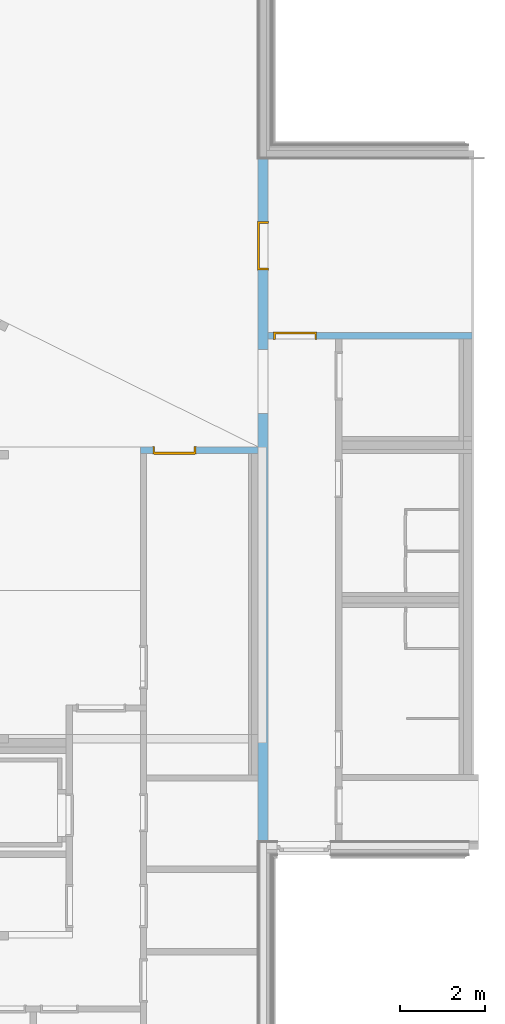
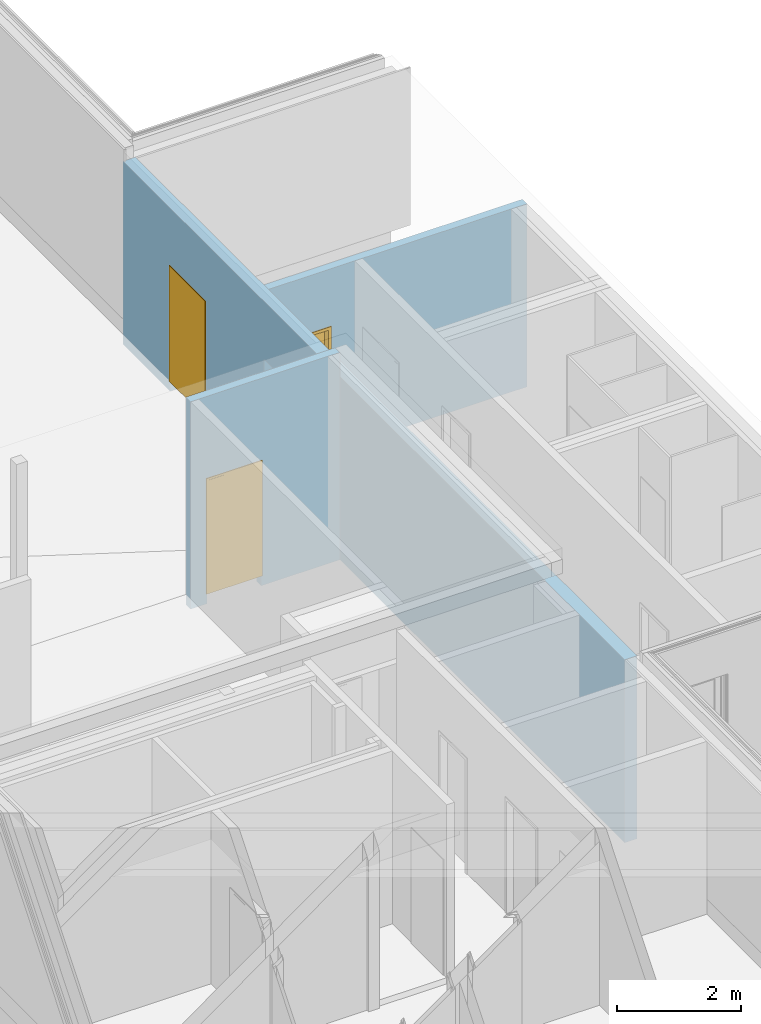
# One storey, part 18 of 23: 3 doors, 4 openings, plus 3 elements that do not belong to this part.
"""IFC4 building model written with IfcOpenShell, lengths in metres."""

from ifc_helpers import new_model, entity, si_unit, converted_unit, derived_unit, frame, frame_2d, origin, origin_with_axes, place, context, subcontext, project, spatial, polyline, rectangle, outline, extrude, faceted_brep, source, transform, mapped, material, type_object, element, fill, save


model = new_model("IFC4")

# Units and contexts
model_context = context("Model", 3, precision=1e-05, world=origin())
body_context = subcontext(model_context, "Body", "Model", "MODEL_VIEW")
ifc_project = project(units=[si_unit("LENGTHUNIT", "METRE"), si_unit("AREAUNIT", "SQUARE_METRE"), si_unit("VOLUMEUNIT", "CUBIC_METRE"), si_unit("MASSUNIT", "GRAM", prefix="KILO"), converted_unit("PLANEANGLEUNIT", "DEGREE", entity("IfcPlaneAngleMeasure", 0.0174532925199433), si_unit("PLANEANGLEUNIT", "RADIAN"), dimensions=[0, 0, 0, 0, 0, 0, 0]), derived_unit("THERMALTRANSMITTANCEUNIT", [(si_unit("POWERUNIT", "WATT"), 1), (si_unit("THERMODYNAMICTEMPERATUREUNIT", "KELVIN"), -1), (si_unit("LENGTHUNIT", "METRE"), -2)]), derived_unit("VOLUMETRICFLOWRATEUNIT", [(si_unit("LENGTHUNIT", "METRE"), 3), (converted_unit("TIMEUNIT", "hour", entity("IfcTimeMeasure", 3600.0), si_unit("TIMEUNIT", "SECOND"), dimensions=[0, 0, 1, 0, 0, 0, 0]), -1), (si_unit("LENGTHUNIT", "METRE"), -1)])], contexts=[model_context])

# Site, building, storey
site_placement = place(None, origin())
site = spatial("IfcSite", under=ifc_project, at=site_placement, Name="Psychiatrie Neubau Wunstorf", CompositionType="ELEMENT")
building_placement = place(site_placement, origin())
building = spatial("IfcBuilding", under=site, at=building_placement, Name="Neubau H1 Sozialzentrum", CompositionType="ELEMENT")
storey_placement = place(building_placement, frame((0.0, 0.0, 0.7)))
storey = spatial("IfcBuildingStorey", under=building, at=storey_placement, Name="H1 Ebene 0", CompositionType="ELEMENT", Elevation=0.7)

# Wall, openings, door
ifc_material_1 = material(Name="WI-HW 60")
wall_1_placement = place(storey_placement, frame((-5.16652529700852, 28.1302445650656, -0.2), z_axis=(0.0, 0.0, 1.0), x_axis=(-3.37391420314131e-16, -1.0, 0.0)))
wall_1 = element("IfcWall", 1, at=wall_1_placement, inside=storey, material=ifc_material_1, context=body_context, shape_type="SweptSolid", body=[
    extrude(rectangle(XDim=16.1739981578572, YDim=0.231999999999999, at=frame_2d((8.08699907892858, 0.116), x_axis=(1.0, 0.0))), origin_with_axes(), (0.0, 0.0, 1.0), 3.6),
])
opening_1_placement = place(wall_1_placement, frame((6.04199824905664, 0.231999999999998, 0.0), z_axis=(0.0, -1.0, 0.0), x_axis=(0.0, 0.0, 1.0)))
element("IfcOpeningElement", 2, at=opening_1_placement, cuts=wall_1, Name="Türöffnung", ObjectType="Opening", context=body_context, shape_type="SweptSolid", body=[
    extrude(outline(polyline([(2.46, 1.5), (2.46, 0.0), (0.0, 0.0), (0.0, 1.5), (2.46, 1.5)])), origin_with_axes(), (0.0, 0.0, 1.0), 0.231999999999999),
])
opening_2_placement = place(wall_1_placement, frame((2.65650055, 0.231999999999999, 0.0), z_axis=(0.0, -1.0, 0.0), x_axis=(0.0, 0.0, 1.0)))
opening_2 = element("IfcOpeningElement", 3, at=opening_2_placement, cuts=wall_1, Name="Türöffnung", ObjectType="Opening", context=body_context, shape_type="SweptSolid", body=[
    extrude(outline(polyline([(2.46, 1.1350011), (2.46, 0.0), (0.0, 0.0), (0.0, 1.1350011), (2.46, 1.1350011)])), origin_with_axes(), (0.0, 0.0, 1.0), 0.231999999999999),
])
ifc_material_2 = material(Name="TI-1F-UZ-ZK")
door_type_1 = type_object("IfcDoorType", Name="SMT", OperationType="SINGLE_SWING_LEFT", ParameterTakesPrecedence=False, PredefinedType="DOOR")
shared_shape_1 = source(origin_with_axes(), body_context, "Body", "Brep", [
    faceted_brep([(0.0, -0.0150000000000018, 2.46), (0.0399999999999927, -0.0150000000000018, 2.46), (0.0399999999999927, -0.0150000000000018, 0.2), (0.0, -0.0150000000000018, 0.2), (0.0, 0.246999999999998, 0.2), (0.0399999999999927, 0.246999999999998, 0.2), (0.0399999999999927, 0.246999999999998, 2.46), (0.0, 0.246999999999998, 2.46)], [[[0, 1, 2, 3]], [[4, 5, 6, 7]], [[3, 4, 7, 0]], [[2, 5, 4, 3]], [[1, 6, 5, 2]], [[0, 7, 6, 1]]], orient=[[False], [False], [False], [False], [False], [False]]),
    faceted_brep([(0.0, -0.0150000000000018, 2.475), (0.0, -0.0150000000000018, 0.2), (-0.0150000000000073, -0.0150000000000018, 0.2), (-0.0150000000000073, -0.0150000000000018, 2.475), (0.0, 0.0, 0.2), (0.0, 0.0, 2.475), (-0.0150000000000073, 0.0, 2.475), (-0.0150000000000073, 0.0, 0.2)], [[[0, 1, 2, 3]], [[4, 5, 6, 7]], [[1, 0, 5, 4]], [[2, 1, 4, 7]], [[3, 2, 7, 6]], [[0, 3, 6, 5]]], orient=[[False], [False], [False], [False], [False], [False]]),
    faceted_brep([(0.0, 0.231999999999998, 2.475), (0.0, 0.231999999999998, 0.2), (-0.0150000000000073, 0.231999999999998, 0.2), (-0.0150000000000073, 0.231999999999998, 2.475), (0.0, 0.246999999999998, 0.2), (0.0, 0.246999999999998, 2.475), (-0.0150000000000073, 0.246999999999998, 2.475), (-0.0150000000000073, 0.246999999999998, 0.2)], [[[0, 1, 2, 3]], [[4, 5, 6, 7]], [[1, 0, 5, 4]], [[2, 1, 4, 7]], [[3, 2, 7, 6]], [[0, 3, 6, 5]]], orient=[[False], [False], [False], [False], [False], [False]]),
    faceted_brep([(1.09500109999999, -0.0150000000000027, 2.46), (1.13500109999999, -0.0150000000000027, 2.46), (1.13500109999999, -0.0150000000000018, 0.2), (1.09500109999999, -0.0150000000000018, 0.2), (1.09500109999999, 0.246999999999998, 0.2), (1.13500109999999, 0.246999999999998, 0.2), (1.13500109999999, 0.246999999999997, 2.46), (1.09500109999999, 0.246999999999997, 2.46)], [[[0, 1, 2, 3]], [[4, 5, 6, 7]], [[3, 4, 7, 0]], [[2, 5, 4, 3]], [[1, 6, 5, 2]], [[0, 7, 6, 1]]], orient=[[False], [False], [False], [False], [False], [False]]),
    faceted_brep([(1.13500109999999, -0.0150000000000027, 2.475), (1.15000109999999, -0.0150000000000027, 2.475), (1.15000109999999, -0.0150000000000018, 0.2), (1.13500109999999, -0.0150000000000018, 0.2), (1.13500109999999, 0.0, 0.2), (1.15000109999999, 0.0, 0.2), (1.15000109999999, 0.0, 2.475), (1.13500109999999, 0.0, 2.475)], [[[0, 1, 2, 3]], [[4, 5, 6, 7]], [[3, 4, 7, 0]], [[2, 5, 4, 3]], [[1, 6, 5, 2]], [[0, 7, 6, 1]]], orient=[[False], [False], [False], [False], [False], [False]]),
    faceted_brep([(1.13500109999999, 0.231999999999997, 2.475), (1.15000109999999, 0.231999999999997, 2.475), (1.15000109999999, 0.231999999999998, 0.2), (1.13500109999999, 0.231999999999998, 0.2), (1.13500109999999, 0.246999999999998, 0.2), (1.15000109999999, 0.246999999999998, 0.2), (1.15000109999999, 0.246999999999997, 2.475), (1.13500109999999, 0.246999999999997, 2.475)], [[[0, 1, 2, 3]], [[4, 5, 6, 7]], [[3, 4, 7, 0]], [[2, 5, 4, 3]], [[1, 6, 5, 2]], [[0, 7, 6, 1]]], orient=[[False], [False], [False], [False], [False], [False]]),
    faceted_brep([(0.0399999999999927, -0.0150000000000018, 2.46), (1.09500109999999, -0.0150000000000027, 2.46), (1.09500109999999, -0.0150000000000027, 2.42), (0.0399999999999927, -0.0150000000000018, 2.42), (0.0399999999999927, 0.246999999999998, 2.42), (1.09500109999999, 0.246999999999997, 2.42), (1.09500109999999, 0.246999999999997, 2.46), (0.0399999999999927, 0.246999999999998, 2.46)], [[[0, 1, 2, 3]], [[4, 5, 6, 7]], [[3, 4, 7, 0]], [[2, 5, 4, 3]], [[1, 6, 5, 2]], [[0, 7, 6, 1]]], orient=[[False], [False], [False], [False], [False], [False]]),
    faceted_brep([(0.0, -0.0150000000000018, 2.475), (1.13500109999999, -0.0150000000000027, 2.475), (1.13500109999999, -0.0150000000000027, 2.46), (0.0, -0.0150000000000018, 2.46), (0.0, 0.0, 2.46), (1.13500109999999, 0.0, 2.46), (1.13500109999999, 0.0, 2.475), (0.0, 0.0, 2.475)], [[[0, 1, 2, 3]], [[4, 5, 6, 7]], [[3, 4, 7, 0]], [[2, 5, 4, 3]], [[1, 6, 5, 2]], [[0, 7, 6, 1]]], orient=[[False], [False], [False], [False], [False], [False]]),
    faceted_brep([(0.0, 0.231999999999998, 2.475), (1.13500109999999, 0.231999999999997, 2.475), (1.13500109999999, 0.231999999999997, 2.46), (0.0, 0.231999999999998, 2.46), (0.0, 0.246999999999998, 2.46), (1.13500109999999, 0.246999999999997, 2.46), (1.13500109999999, 0.246999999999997, 2.475), (0.0, 0.246999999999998, 2.475)], [[[0, 1, 2, 3]], [[4, 5, 6, 7]], [[3, 4, 7, 0]], [[2, 5, 4, 3]], [[1, 6, 5, 2]], [[0, 7, 6, 1]]], orient=[[False], [False], [False], [False], [False], [False]]),
    faceted_brep([(0.0249999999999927, 0.197999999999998, 2.435), (1.11000109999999, 0.197999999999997, 2.435), (1.11000109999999, 0.197999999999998, 0.2), (0.0249999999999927, 0.197999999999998, 0.2), (0.0249999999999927, 0.247999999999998, 0.2), (1.11000109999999, 0.247999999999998, 0.2), (1.11000109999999, 0.247999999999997, 2.435), (0.0249999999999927, 0.247999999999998, 2.435)], [[[0, 1, 2, 3]], [[4, 5, 6, 7]], [[3, 4, 7, 0]], [[2, 5, 4, 3]], [[1, 6, 5, 2]], [[0, 7, 6, 1]]], orient=[[False], [False], [False], [False], [False], [False]]),
])
door_1_placement = place(opening_2_placement, frame((0.0, 0.0, 0.0), z_axis=(1.0, 0.0, 0.0), x_axis=(0.0, 1.0, 3.37391420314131e-16)))
door_1 = element("IfcDoor", 4, at=door_1_placement, inside=storey, type_object=door_type_1, material=ifc_material_2, Name="SMT", OverallHeight=2.46, OverallWidth=1.135, context=body_context, shape_type="MappedRepresentation", body=[
    mapped(shared_shape_1, transform((0.0, 0.0, 0.0), x_axis=(1.0, 0.0, 0.0), y_axis=(0.0, 1.0, 0.0), z_axis=(0.0, 0.0, 1.0), scale=1.0)),
])
fill(opening_2, door_1)

# Wall, opening, door
ifc_material_3 = material(Name="WI-IW")
wall_2_placement = place(storey_placement, frame((-0.121000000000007, 23.9882445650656, -0.2), z_axis=(0.0, 0.0, 1.0), x_axis=(-1.0, 0.0, 0.0)))
wall_2 = element("IfcWall", 5, at=wall_2_placement, inside=storey, material=ifc_material_3, context=body_context, shape_type="SweptSolid", body=[
    extrude(rectangle(XDim=4.81352529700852, YDim=0.15, at=frame_2d((2.40676264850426, 0.075), x_axis=(1.0, 0.0))), origin_with_axes(), (0.0, 0.0, 1.0), 3.6),
])
opening_3_placement = place(wall_2_placement, frame((4.6755271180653, 0.15, 0.0), z_axis=(0.0, -1.0, 0.0), x_axis=(0.0, 0.0, 1.0)))
opening_3 = element("IfcOpeningElement", 6, at=opening_3_placement, cuts=wall_2, Name="Türöffnung", ObjectType="Opening", context=body_context, shape_type="SweptSolid", body=[
    extrude(outline(polyline([(2.46, 1.01), (2.46, 0.0), (0.0, 0.0), (0.0, 1.01), (2.46, 1.01)])), origin_with_axes(), (0.0, 0.0, 1.0), 0.15),
])
ifc_material_4 = material(Name="TI-1F-UZ-ZK")
door_type_2 = type_object("IfcDoorType", Name="SMT", OperationType="SINGLE_SWING_RIGHT", ParameterTakesPrecedence=False, PredefinedType="DOOR")
shared_shape_2 = source(origin_with_axes(), body_context, "Body", "Brep", [
    faceted_brep([(0.0, -0.015, 2.46), (0.04, -0.015, 2.46), (0.04, -0.015, 0.2), (0.0, -0.015, 0.2), (0.0, 0.165, 0.2), (0.04, 0.165, 0.2), (0.04, 0.165, 2.46), (0.0, 0.165, 2.46)], [[[0, 1, 2, 3]], [[4, 5, 6, 7]], [[3, 4, 7, 0]], [[2, 5, 4, 3]], [[1, 6, 5, 2]], [[0, 7, 6, 1]]], orient=[[False], [False], [False], [False], [False], [False]]),
    faceted_brep([(0.0, -0.015, 2.475), (0.0, -0.015, 0.2), (-0.015, -0.015, 0.2), (-0.015, -0.015, 2.475), (0.0, 0.0, 0.2), (0.0, 0.0, 2.475), (-0.015, 0.0, 2.475), (-0.015, 0.0, 0.2)], [[[0, 1, 2, 3]], [[4, 5, 6, 7]], [[1, 0, 5, 4]], [[2, 1, 4, 7]], [[3, 2, 7, 6]], [[0, 3, 6, 5]]], orient=[[False], [False], [False], [False], [False], [False]]),
    faceted_brep([(0.0, 0.15, 2.475), (0.0, 0.15, 0.2), (-0.015, 0.15, 0.2), (-0.015, 0.15, 2.475), (0.0, 0.165, 0.2), (0.0, 0.165, 2.475), (-0.015, 0.165, 2.475), (-0.015, 0.165, 0.2)], [[[0, 1, 2, 3]], [[4, 5, 6, 7]], [[1, 0, 5, 4]], [[2, 1, 4, 7]], [[3, 2, 7, 6]], [[0, 3, 6, 5]]], orient=[[False], [False], [False], [False], [False], [False]]),
    faceted_brep([(0.97, -0.015, 2.46), (1.01, -0.015, 2.46), (1.01, -0.015, 0.2), (0.97, -0.015, 0.2), (0.97, 0.165, 0.2), (1.01, 0.165, 0.2), (1.01, 0.165, 2.46), (0.97, 0.165, 2.46)], [[[0, 1, 2, 3]], [[4, 5, 6, 7]], [[3, 4, 7, 0]], [[2, 5, 4, 3]], [[1, 6, 5, 2]], [[0, 7, 6, 1]]], orient=[[False], [False], [False], [False], [False], [False]]),
    faceted_brep([(1.01, -0.015, 2.475), (1.025, -0.015, 2.475), (1.025, -0.015, 0.2), (1.01, -0.015, 0.2), (1.01, 0.0, 0.2), (1.025, 0.0, 0.2), (1.025, 0.0, 2.475), (1.01, 0.0, 2.475)], [[[0, 1, 2, 3]], [[4, 5, 6, 7]], [[3, 4, 7, 0]], [[2, 5, 4, 3]], [[1, 6, 5, 2]], [[0, 7, 6, 1]]], orient=[[False], [False], [False], [False], [False], [False]]),
    faceted_brep([(1.01, 0.15, 2.475), (1.025, 0.15, 2.475), (1.025, 0.15, 0.2), (1.01, 0.15, 0.2), (1.01, 0.165, 0.2), (1.025, 0.165, 0.2), (1.025, 0.165, 2.475), (1.01, 0.165, 2.475)], [[[0, 1, 2, 3]], [[4, 5, 6, 7]], [[3, 4, 7, 0]], [[2, 5, 4, 3]], [[1, 6, 5, 2]], [[0, 7, 6, 1]]], orient=[[False], [False], [False], [False], [False], [False]]),
    faceted_brep([(0.04, -0.015, 2.46), (0.97, -0.015, 2.46), (0.97, -0.015, 2.42), (0.04, -0.015, 2.42), (0.04, 0.165, 2.42), (0.97, 0.165, 2.42), (0.97, 0.165, 2.46), (0.04, 0.165, 2.46)], [[[0, 1, 2, 3]], [[4, 5, 6, 7]], [[3, 4, 7, 0]], [[2, 5, 4, 3]], [[1, 6, 5, 2]], [[0, 7, 6, 1]]], orient=[[False], [False], [False], [False], [False], [False]]),
    faceted_brep([(0.0, -0.015, 2.475), (1.01, -0.015, 2.475), (1.01, -0.015, 2.46), (0.0, -0.015, 2.46), (0.0, 0.0, 2.46), (1.01, 0.0, 2.46), (1.01, 0.0, 2.475), (0.0, 0.0, 2.475)], [[[0, 1, 2, 3]], [[4, 5, 6, 7]], [[3, 4, 7, 0]], [[2, 5, 4, 3]], [[1, 6, 5, 2]], [[0, 7, 6, 1]]], orient=[[False], [False], [False], [False], [False], [False]]),
    faceted_brep([(0.0, 0.15, 2.475), (1.01, 0.15, 2.475), (1.01, 0.15, 2.46), (0.0, 0.15, 2.46), (0.0, 0.165, 2.46), (1.01, 0.165, 2.46), (1.01, 0.165, 2.475), (0.0, 0.165, 2.475)], [[[0, 1, 2, 3]], [[4, 5, 6, 7]], [[3, 4, 7, 0]], [[2, 5, 4, 3]], [[1, 6, 5, 2]], [[0, 7, 6, 1]]], orient=[[False], [False], [False], [False], [False], [False]]),
    faceted_brep([(0.025, 0.116, 2.435), (0.985, 0.116, 2.435), (0.985, 0.116, 0.2), (0.025, 0.116, 0.2), (0.025, 0.166, 0.2), (0.985, 0.166, 0.2), (0.985, 0.166, 2.435), (0.025, 0.166, 2.435)], [[[0, 1, 2, 3]], [[4, 5, 6, 7]], [[3, 4, 7, 0]], [[2, 5, 4, 3]], [[1, 6, 5, 2]], [[0, 7, 6, 1]]], orient=[[False], [False], [False], [False], [False], [False]]),
])
door_2_placement = place(opening_3_placement, frame((0.0, 0.0, 0.0), z_axis=(1.0, 0.0, 0.0), x_axis=(0.0, 1.0, 0.0)))
door_2 = element("IfcDoor", 7, at=door_2_placement, inside=storey, type_object=door_type_2, material=ifc_material_4, Name="SMT", OverallHeight=2.46, OverallWidth=1.01, context=body_context, shape_type="MappedRepresentation", body=[
    mapped(shared_shape_2, transform((0.0, 0.0, 0.0), x_axis=(1.0, 0.0, 0.0), y_axis=(0.0, 1.0, 0.0), z_axis=(0.0, 0.0, 1.0), scale=1.0)),
])
fill(opening_3, door_2)

ifc_material_5 = material(Name="WI-IW")
wall_3_placement = place(storey_placement, frame((-7.94152706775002, 21.1382463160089, -0.2)))
wall_3 = element("IfcWall", 8, at=wall_3_placement, inside=storey, material=ifc_material_5, context=body_context, shape_type="SweptSolid", body=[
    extrude(rectangle(XDim=2.77500176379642, YDim=0.149999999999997, at=frame_2d((1.38750088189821, 0.0749999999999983), x_axis=(1.0, 0.0))), origin_with_axes(), (0.0, 0.0, 1.0), 4.08),
])
opening_4_placement = place(wall_3_placement, frame((0.300000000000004, 0.0, 0.0), z_axis=(0.0, 1.0, 0.0), x_axis=(0.0, 0.0, 1.0)))
opening_4 = element("IfcOpeningElement", 9, at=opening_4_placement, cuts=wall_3, Name="Türöffnung", ObjectType="Opening", context=body_context, shape_type="SweptSolid", body=[
    extrude(outline(polyline([(2.46, 1.01), (2.46, 0.0), (0.0, 0.0), (0.0, 1.01), (2.46, 1.01)])), origin_with_axes(), (0.0, 0.0, 1.0), 0.149999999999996),
])
ifc_material_6 = material(Name="TI-1F-UZ-ZK")
door_type_3 = type_object("IfcDoorType", Name="SMT", OperationType="SINGLE_SWING_RIGHT", ParameterTakesPrecedence=False, PredefinedType="DOOR")
shared_shape_3 = source(origin_with_axes(), body_context, "Body", "Brep", [
    faceted_brep([(1.01, -0.015, 2.46), (1.01, -0.015, 0.2), (0.97, -0.015, 0.2), (0.97, -0.015, 2.46), (1.01, 0.164999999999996, 0.2), (1.01, 0.164999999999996, 2.46), (0.97, 0.164999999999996, 2.46), (0.97, 0.164999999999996, 0.2)], [[[0, 1, 2, 3]], [[4, 5, 6, 7]], [[1, 0, 5, 4]], [[2, 1, 4, 7]], [[3, 2, 7, 6]], [[0, 3, 6, 5]]], orient=[[False], [False], [False], [False], [False], [False]]),
    faceted_brep([(1.01, -0.015, 2.475), (1.025, -0.015, 2.475), (1.025, -0.015, 0.2), (1.01, -0.015, 0.2), (1.01, 0.0, 0.2), (1.025, 0.0, 0.2), (1.025, 0.0, 2.475), (1.01, 0.0, 2.475)], [[[0, 1, 2, 3]], [[4, 5, 6, 7]], [[3, 4, 7, 0]], [[2, 5, 4, 3]], [[1, 6, 5, 2]], [[0, 7, 6, 1]]], orient=[[False], [False], [False], [False], [False], [False]]),
    faceted_brep([(1.01, 0.149999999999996, 2.475), (1.025, 0.149999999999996, 2.475), (1.025, 0.149999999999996, 0.2), (1.01, 0.149999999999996, 0.2), (1.01, 0.164999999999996, 0.2), (1.025, 0.164999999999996, 0.2), (1.025, 0.164999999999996, 2.475), (1.01, 0.164999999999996, 2.475)], [[[0, 1, 2, 3]], [[4, 5, 6, 7]], [[3, 4, 7, 0]], [[2, 5, 4, 3]], [[1, 6, 5, 2]], [[0, 7, 6, 1]]], orient=[[False], [False], [False], [False], [False], [False]]),
    faceted_brep([(0.04, -0.015, 2.46), (0.04, -0.015, 0.2), (0.0, -0.015, 0.2), (0.0, -0.015, 2.46), (0.04, 0.164999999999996, 0.2), (0.04, 0.164999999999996, 2.46), (0.0, 0.164999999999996, 2.46), (0.0, 0.164999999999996, 0.2)], [[[0, 1, 2, 3]], [[4, 5, 6, 7]], [[1, 0, 5, 4]], [[2, 1, 4, 7]], [[3, 2, 7, 6]], [[0, 3, 6, 5]]], orient=[[False], [False], [False], [False], [False], [False]]),
    faceted_brep([(0.0, -0.015, 2.475), (0.0, -0.015, 0.2), (-0.015, -0.015, 0.2), (-0.015, -0.015, 2.475), (0.0, 0.0, 0.2), (0.0, 0.0, 2.475), (-0.015, 0.0, 2.475), (-0.015, 0.0, 0.2)], [[[0, 1, 2, 3]], [[4, 5, 6, 7]], [[1, 0, 5, 4]], [[2, 1, 4, 7]], [[3, 2, 7, 6]], [[0, 3, 6, 5]]], orient=[[False], [False], [False], [False], [False], [False]]),
    faceted_brep([(0.0, 0.149999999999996, 2.475), (0.0, 0.149999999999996, 0.2), (-0.015, 0.149999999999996, 0.2), (-0.015, 0.149999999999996, 2.475), (0.0, 0.164999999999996, 0.2), (0.0, 0.164999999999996, 2.475), (-0.015, 0.164999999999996, 2.475), (-0.015, 0.164999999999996, 0.2)], [[[0, 1, 2, 3]], [[4, 5, 6, 7]], [[1, 0, 5, 4]], [[2, 1, 4, 7]], [[3, 2, 7, 6]], [[0, 3, 6, 5]]], orient=[[False], [False], [False], [False], [False], [False]]),
    faceted_brep([(0.97, -0.015, 2.46), (0.97, -0.015, 2.42), (0.04, -0.015, 2.42), (0.04, -0.015, 2.46), (0.97, 0.164999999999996, 2.42), (0.97, 0.164999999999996, 2.46), (0.04, 0.164999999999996, 2.46), (0.04, 0.164999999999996, 2.42)], [[[0, 1, 2, 3]], [[4, 5, 6, 7]], [[1, 0, 5, 4]], [[2, 1, 4, 7]], [[3, 2, 7, 6]], [[0, 3, 6, 5]]], orient=[[False], [False], [False], [False], [False], [False]]),
    faceted_brep([(1.01, -0.015, 2.475), (1.01, -0.015, 2.46), (0.0, -0.015, 2.46), (0.0, -0.015, 2.475), (1.01, 0.0, 2.46), (1.01, 0.0, 2.475), (0.0, 0.0, 2.475), (0.0, 0.0, 2.46)], [[[0, 1, 2, 3]], [[4, 5, 6, 7]], [[1, 0, 5, 4]], [[2, 1, 4, 7]], [[3, 2, 7, 6]], [[0, 3, 6, 5]]], orient=[[False], [False], [False], [False], [False], [False]]),
    faceted_brep([(1.01, 0.149999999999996, 2.475), (1.01, 0.149999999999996, 2.46), (0.0, 0.149999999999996, 2.46), (0.0, 0.149999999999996, 2.475), (1.01, 0.164999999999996, 2.46), (1.01, 0.164999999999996, 2.475), (0.0, 0.164999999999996, 2.475), (0.0, 0.164999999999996, 2.46)], [[[0, 1, 2, 3]], [[4, 5, 6, 7]], [[1, 0, 5, 4]], [[2, 1, 4, 7]], [[3, 2, 7, 6]], [[0, 3, 6, 5]]], orient=[[False], [False], [False], [False], [False], [False]]),
    faceted_brep([(0.985, 0.115999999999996, 2.435), (0.985, 0.115999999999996, 0.2), (0.025, 0.115999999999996, 0.2), (0.025, 0.115999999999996, 2.435), (0.985, 0.165999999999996, 0.2), (0.985, 0.165999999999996, 2.435), (0.025, 0.165999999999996, 2.435), (0.025, 0.165999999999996, 0.2)], [[[0, 1, 2, 3]], [[4, 5, 6, 7]], [[1, 0, 5, 4]], [[2, 1, 4, 7]], [[3, 2, 7, 6]], [[0, 3, 6, 5]]], orient=[[False], [False], [False], [False], [False], [False]]),
])
door_3_placement = place(opening_4_placement, frame((0.0, 1.01, 0.149999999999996), z_axis=(1.0, 0.0, 0.0), x_axis=(0.0, -1.0, 0.0)))
door_3 = element("IfcDoor", 10, at=door_3_placement, inside=storey, type_object=door_type_3, material=ifc_material_6, Name="SMT", OverallHeight=2.46, OverallWidth=1.01, context=body_context, shape_type="MappedRepresentation", body=[
    mapped(shared_shape_3, transform((0.0, 0.0, 0.0), x_axis=(1.0, 0.0, 0.0), y_axis=(0.0, 1.0, 0.0), z_axis=(0.0, 0.0, 1.0), scale=1.0)),
])
fill(opening_4, door_3)

save(model, "model.ifc")
